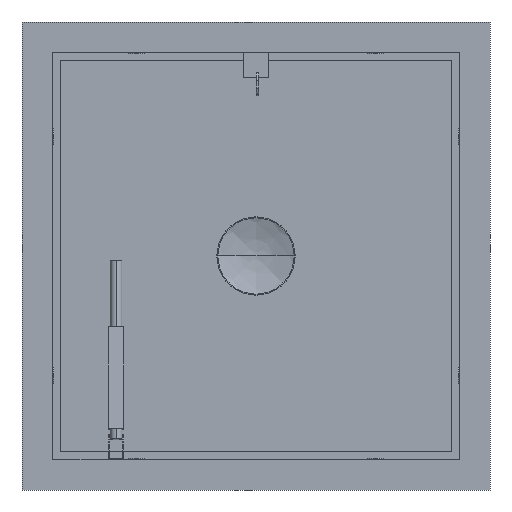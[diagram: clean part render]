
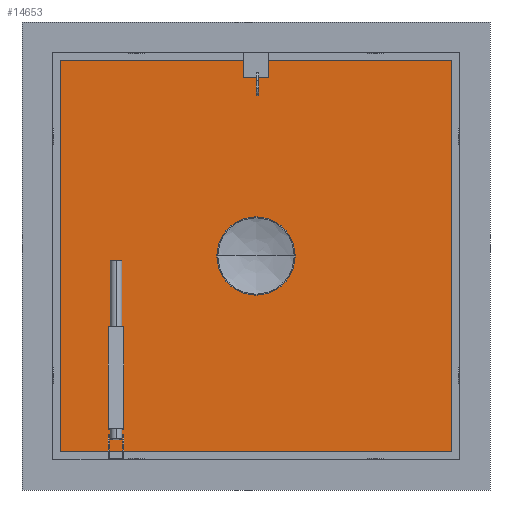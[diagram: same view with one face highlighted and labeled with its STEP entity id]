
A CAD part, front view. The second image highlights one B-rep face of the part: STEP entity #14653.
In plain terms, the highlighted planar face has unit normal (0, -1, 0).
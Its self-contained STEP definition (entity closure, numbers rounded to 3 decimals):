
#5844=DIRECTION('',(0.,0.,-1.));
#5845=VECTOR('',#5844,848.);
#5846=CARTESIAN_POINT('',(424.,74.,415.));
#5847=LINE('',#5846,#5845);
#5852=CARTESIAN_POINT('',(0.,74.,0.));
#5853=DIRECTION('',(0.,-1.,0.));
#5854=DIRECTION('',(-1.,0.,0.));
#5855=AXIS2_PLACEMENT_3D('',#5852,#5853,#5854);
#5857=CARTESIAN_POINT('',(0.,74.,0.));
#5858=DIRECTION('',(0.,-1.,0.));
#5859=DIRECTION('',(1.,0.,0.));
#5860=AXIS2_PLACEMENT_3D('',#5857,#5858,#5859);
#5862=DIRECTION('',(0.,0.,-1.));
#5863=VECTOR('',#5862,30.);
#5864=CARTESIAN_POINT('',(0.,74.,345.));
#5865=LINE('',#5864,#5863);
#5866=DIRECTION('',(1.,0.,0.));
#5867=VECTOR('',#5866,5.);
#5868=CARTESIAN_POINT('',(0.,74.,315.));
#5869=LINE('',#5868,#5867);
#5870=DIRECTION('',(0.,0.,-1.));
#5871=VECTOR('',#5870,30.);
#5872=CARTESIAN_POINT('',(5.,74.,345.));
#5873=LINE('',#5872,#5871);
#5874=DIRECTION('',(1.,0.,0.));
#5875=VECTOR('',#5874,5.);
#5876=CARTESIAN_POINT('',(0.,74.,345.));
#5877=LINE('',#5876,#5875);
#5878=DIRECTION('',(-1.,0.,0.));
#5879=VECTOR('',#5878,848.);
#5880=CARTESIAN_POINT('',(424.,74.,-433.));
#5881=LINE('',#5880,#5879);
#5886=DIRECTION('',(0.,0.,1.));
#5887=VECTOR('',#5886,848.);
#5888=CARTESIAN_POINT('',(-424.,74.,-433.));
#5889=LINE('',#5888,#5887);
#5894=DIRECTION('',(1.,0.,0.));
#5895=VECTOR('',#5894,848.);
#5896=CARTESIAN_POINT('',(-424.,74.,415.));
#5897=LINE('',#5896,#5895);
#11545=CARTESIAN_POINT('',(424.,74.,415.));
#11546=CARTESIAN_POINT('',(424.,74.,-433.));
#11547=VERTEX_POINT('',#11545);
#11548=VERTEX_POINT('',#11546);
#11549=CARTESIAN_POINT('',(-424.,74.,-433.));
#11550=VERTEX_POINT('',#11549);
#11551=CARTESIAN_POINT('',(-424.,74.,415.));
#11552=VERTEX_POINT('',#11551);
#11591=CARTESIAN_POINT('',(0.,74.,345.));
#11592=VERTEX_POINT('',#11591);
#11594=CARTESIAN_POINT('',(0.,74.,315.));
#11596=VERTEX_POINT('',#11594);
#11597=CARTESIAN_POINT('',(5.,74.,345.));
#11598=VERTEX_POINT('',#11597);
#11600=CARTESIAN_POINT('',(5.,74.,315.));
#11602=VERTEX_POINT('',#11600);
#11603=CARTESIAN_POINT('',(-77.,74.,0.));
#11604=CARTESIAN_POINT('',(77.,74.,0.));
#11605=VERTEX_POINT('',#11603);
#11606=VERTEX_POINT('',#11604);
#14623=CARTESIAN_POINT('',(0.,74.,0.));
#14624=DIRECTION('',(0.,1.,0.));
#14625=DIRECTION('',(1.,0.,0.));
#14626=AXIS2_PLACEMENT_3D('',#14623,#14624,#14625);
#14627=PLANE('',#14626);
#14628=ORIENTED_EDGE('',*,*,#14613,.T.);
#14630=ORIENTED_EDGE('',*,*,#14629,.T.);
#14632=ORIENTED_EDGE('',*,*,#14631,.T.);
#14634=ORIENTED_EDGE('',*,*,#14633,.T.);
#14635=EDGE_LOOP('',(#14628,#14630,#14632,#14634));
#14636=FACE_OUTER_BOUND('',#14635,.F.);
#14638=ORIENTED_EDGE('',*,*,#14637,.T.);
#14640=ORIENTED_EDGE('',*,*,#14639,.T.);
#14641=EDGE_LOOP('',(#14638,#14640));
#14642=FACE_BOUND('',#14641,.F.);
#14644=ORIENTED_EDGE('',*,*,#14643,.T.);
#14646=ORIENTED_EDGE('',*,*,#14645,.T.);
#14648=ORIENTED_EDGE('',*,*,#14647,.F.);
#14650=ORIENTED_EDGE('',*,*,#14649,.F.);
#14651=EDGE_LOOP('',(#14644,#14646,#14648,#14650));
#14652=FACE_BOUND('',#14651,.F.);
#5856=CIRCLE('',#5855,77.);
#5861=CIRCLE('',#5860,77.);
#14613=EDGE_CURVE('',#11547,#11548,#5847,.T.);
#14629=EDGE_CURVE('',#11548,#11550,#5881,.T.);
#14631=EDGE_CURVE('',#11550,#11552,#5889,.T.);
#14633=EDGE_CURVE('',#11552,#11547,#5897,.T.);
#14637=EDGE_CURVE('',#11605,#11606,#5856,.T.);
#14639=EDGE_CURVE('',#11606,#11605,#5861,.T.);
#14643=EDGE_CURVE('',#11592,#11596,#5865,.T.);
#14645=EDGE_CURVE('',#11596,#11602,#5869,.T.);
#14647=EDGE_CURVE('',#11598,#11602,#5873,.T.);
#14649=EDGE_CURVE('',#11592,#11598,#5877,.T.);
#14653=ADVANCED_FACE('',(#14636,#14642,#14652),#14627,.F.);
